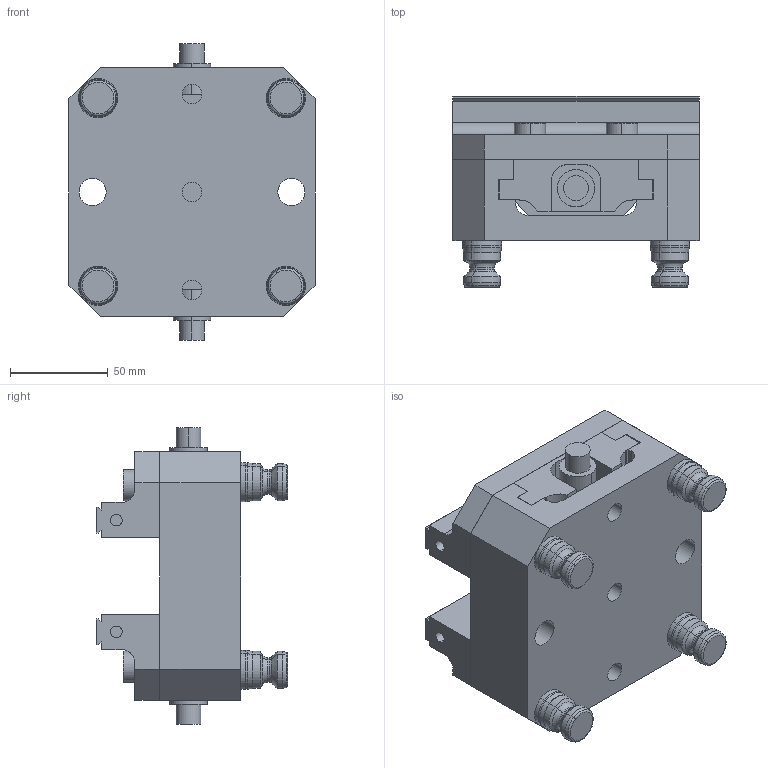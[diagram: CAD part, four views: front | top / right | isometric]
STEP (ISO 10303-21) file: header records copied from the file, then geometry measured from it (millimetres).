
FILE_DESCRIPTION (( 'STEP AP214' ), '1' );
FILE_NAME ('D_R96-V552M.STEP', '2020-03-13T22:10:55', ( '' ), ( '' ), 'SwSTEP 2.0', 'SolidWorks 2018', '' );
FILE_SCHEMA (( 'AUTOMOTIVE_DESIGN' ));
Length unit declared in the file: millimetre
Products named in the file (6): D_V562M-5; D_V562M-2; D_V552M; D_R96-V552M; D_PS20F_HARD TURN; D_V552M-1
Assembly tree (10 placements, depth 3):
  D_R96-V552M
    D_V552M
      D_V552M-1
      D_V562M-2  x2
      D_V562M-5  x2
    D_PS20F_HARD TURN  x4
Bounding box: 125.73 x 97.65 x 151.64 mm (x, y, z)
Volume: 763548.8 mm3; surface area: 155675.7 mm2
Topology: 9 solids, 9 shells, 403 faces, 954 edges, 588 vertices
Faces by surface type: plane 157, cylinder 142, torus 64, cone 40
Entity records: 7324 total; most frequent: CARTESIAN_POINT 1252, DIRECTION 1111, ORIENTED_EDGE 998, EDGE_CURVE 499, AXIS2_PLACEMENT_3D 411, VERTEX_POINT 318, VECTOR 289, LINE 289
